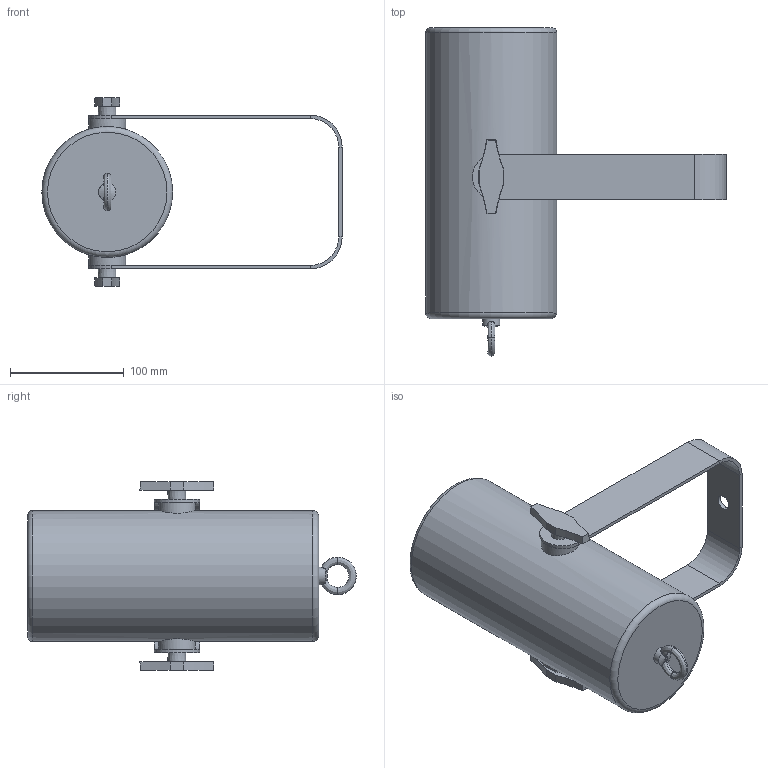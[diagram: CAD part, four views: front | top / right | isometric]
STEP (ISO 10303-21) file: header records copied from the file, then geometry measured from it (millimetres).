
FILE_DESCRIPTION(/* description */ (''),/* implementation_level */ '2;1');
FILE_NAME(/* name */ 'D:/dgooch/Documents/CADENG/PRO/Ovation H-55WW/90/3D/Ovation H-55WW_90.step',/* time_stamp */ '2019-11-13T10:18:50-05:00',/* author */ (''),/* organization */ (''),/* preprocessor_version */ 'ST-DEVELOPER v18',/* originating_system */ 'Autodesk Translation Framework v8.12.0.6',/* authorisation */ '');
FILE_SCHEMA (('AUTOMOTIVE_DESIGN { 1 0 10303 214 3 1 1 }'));
Length unit declared in the file: millimetre
Products named in the file (3): Ovation Mini Houselight; Bracket; Mian
Assembly tree (2 placements, depth 2):
  Ovation Mini Houselight
    Bracket
    Mian
Bounding box: 264 x 288.69 x 165.71 mm (x, y, z)
Volume: 2725634.8 mm3; surface area: 175635.8 mm2
Topology: 2 solids, 2 shells, 67 faces, 157 edges, 100 vertices
Faces by surface type: plane 34, cylinder 14, cone 11, bspline 6, torus 2
Full cylindrical faces by diameter (mm): 8.1 x2, 13 x1, 15.3 x1, 32.439 x2, 81 x1, 115 x1
Entity records: 3838 total; most frequent: CARTESIAN_POINT 2239, DIRECTION 317, ORIENTED_EDGE 314, EDGE_CURVE 157, AXIS2_PLACEMENT_3D 126, VERTEX_POINT 100, EDGE_LOOP 81, FACE_OUTER_BOUND 67
